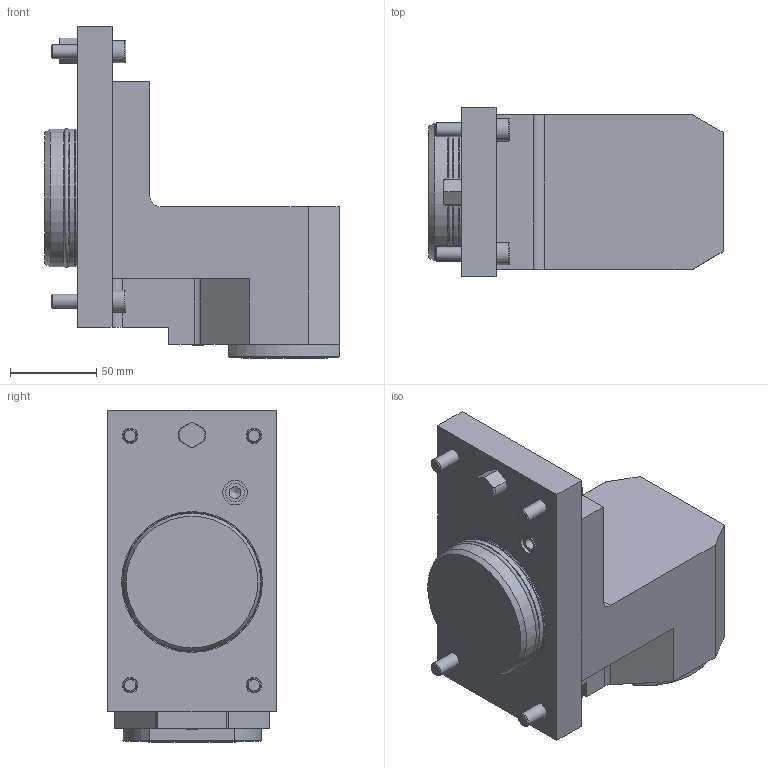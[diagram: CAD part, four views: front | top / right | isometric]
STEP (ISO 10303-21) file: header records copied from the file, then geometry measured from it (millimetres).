
FILE_DESCRIPTION(/* description */ (''),/* implementation_level */ '2;1');
FILE_NAME(/* name */ '198245',/* time_stamp */ '2021-11-19T08:25:48+01:00',/* author */ (''),/* organization */ (''),/* preprocessor_version */ 'ST-DEVELOPER v16.5',/* originating_system */ 'HiCAD 2017 2201.0 Build 268',/* authorisation */ '');
FILE_SCHEMA (('AUTOMOTIVE_DESIGN { 1 0 10303 214 1 1 1 1 }'));
Length unit declared in the file: millimetre
Products named in the file (23): Root; Leeres Teil; OR72X2_5_260; KS10.82x1.68_Kantsealring_250; SCHWERTBOLZEN 16-6_150; Normteilgruppe _0; ISO 4762-M8x35-12.9_Zylinderkopfschrauben_412; GEWINDE; 986.18581.000.1_350; 765.16108.001.0; 786.18581.106.1_Dummy; ISO 8741-3x12-St_Kerbstifte_405; QUADER_0_160; ROTATIONSTEIL_0_200; KUGEL_0; ROTATIONSTEIL_0_100
Assembly tree (22 placements, depth 5):
  Root
    Leeres Teil
      OR72X2_5_260
      KS10.82x1.68_Kantsealring_250
      SCHWERTBOLZEN 16-6_150
      Normteilgruppe _0
        ISO 4762-M8x35-12.9_Zylinderkopfschrauben_412
          GEWINDE
        ISO 4762-M8x35-12.9_Zylinderkopfschrauben_412
          GEWINDE
        ISO 4762-M8x35-12.9_Zylinderkopfschrauben_412
          GEWINDE
        ISO 4762-M8x35-12.9_Zylinderkopfschrauben_412
          GEWINDE
      Leeres Teil
        986.18581.000.1_350
          765.16108.001.0
          786.18581.106.1_Dummy
        ISO 8741-3x12-St_Kerbstifte_405
        QUADER_0_160
        ROTATIONSTEIL_0_200
      KUGEL_0
      ROTATIONSTEIL_0_100
Bounding box: 171 x 98 x 193 mm (x, y, z)
Volume: 1413445.4 mm3; surface area: 144543.6 mm2
Topology: 17 solids, 17 shells, 305 faces, 707 edges, 445 vertices
Faces by surface type: plane 161, cylinder 76, cone 39, torus 19, bspline 7, sphere 3
Full cylindrical faces by diameter (mm): 3 x1, 4.97 x1, 5 x1, 5.6 x1, 6 x1, 6.8 x9, 8 x8, 9 x4, 9.8 x1, 10.82 x1, 13 x4, 14.18 x1, 14.27 x1, 15 x1, 17.8 x1, 17.9 x1, 18.2 x1, 20 x2, 39.2 x1, 45 x1, 50 x1, 50.03 x1, 75.8 x1, 79.6 x1, 80 x2
Entity records: 14564 total; most frequent: CARTESIAN_POINT 2082, DIRECTION 1464, PRESENTATION_STYLE_ASSIGNMENT 1141, ORIENTED_EDGE 1132, COLOUR_RGB 1129, DRAUGHTING_PRE_DEFINED_CURVE_FONT 1124, CURVE_STYLE 1124, OVER_RIDING_STYLED_ITEM 1124
